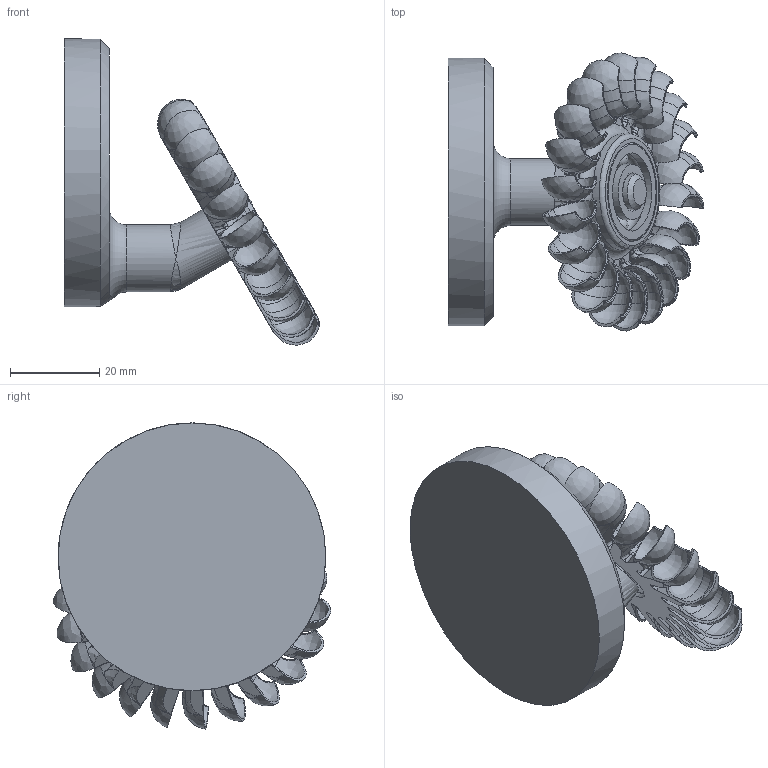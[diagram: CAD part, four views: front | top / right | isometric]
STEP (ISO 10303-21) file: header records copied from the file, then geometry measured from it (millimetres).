
FILE_DESCRIPTION(/* description */ (''),/* implementation_level */ '2;1');
FILE_NAME(/* name */ 'Assieme1.stp',/* time_stamp */ '2026-05-12T12:53:06+02:00',/* author */ ('Ryzen5700u'),/* organization */ (''),/* preprocessor_version */ 'ST-DEVELOPER v20',/* originating_system */ 'Autodesk Inventor 2025',/* authorisation */ '');
FILE_SCHEMA (('AUTOMOTIVE_DESIGN { 1 0 10303 214 3 1 1 }'));
Products named in the file (4): Assieme1; Parte1b; BS 290 SKF - SKF 608-Z; Parte3
Assembly tree (3 placements, depth 2):
  Assieme1
    Parte1b
    BS 290 SKF - SKF 608-Z
    Parte3
Bounding box: 57.19 x 62.29 x 68.61 mm (x, y, z)
Volume: 40090.5 mm3; surface area: 22318.9 mm2
Topology: 3 solids, 3 shells, 920 faces, 2524 edges, 1617 vertices
Faces by surface type: bspline 370, plane 268, cylinder 210, torus 64, sphere 6, cone 2
Full cylindrical faces by diameter (mm): 7.9 x1, 8 x1, 12.48 x2, 15 x1, 17.52 x2, 18 x1, 22 x1, 22.1 x1, 26 x1, 60 x1
Entity records: 46120 total; most frequent: CARTESIAN_POINT 24881, ORIENTED_EDGE 5016, DIRECTION 3112, EDGE_CURVE 2508, VERTEX_POINT 1616, AXIS2_PLACEMENT_3D 1161, B_SPLINE_CURVE_WITH_KNOTS 1114, EDGE_LOOP 958
